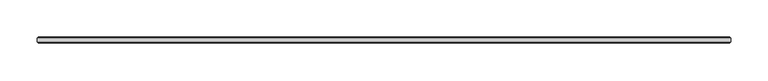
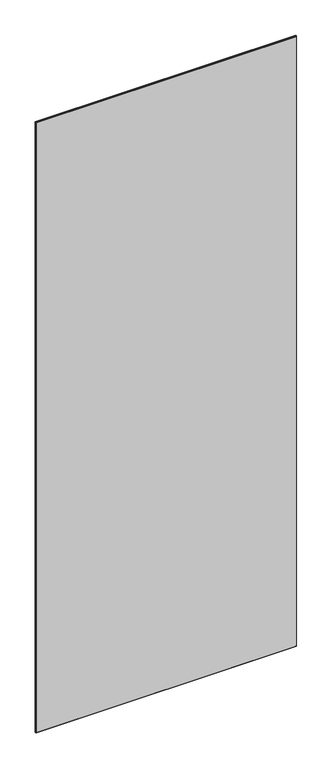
"""IFC4 building model written with IfcOpenShell, lengths in millimetres: plate geometry, 1-AMG-1-Панель одинарный витраж 8, 10 : Смещение 32 Толщина 8mm."""

import ifcopenshell
import ifcopenshell.guid

model = None  # the IFC model being written
_history = None  # IfcOwnerHistory: only IFC2X3 demands one
_inside = {}  # id of a spatial element -> (the spatial element, [elements in it])
_under = {}  # id of a project, library or spatial element -> (it, [spatial elements below it])
_declared = {}  # id of a project -> (the project, [libraries it declares])
_typed = {}  # id of a type object -> (the type object, [elements of that type])
_made_of = {}  # id of a material, layer set ... -> (it, [elements and type objects made of it])


def new_model(schema):
    """Start an empty IFC model of exactly this schema.

    Asked for "IFC4X3", IfcOpenShell would pick the latest addendum, in which some entities
    have other attributes; the version numbers below select the first issue.
    IFC2X3 requires an IfcOwnerHistory on every rooted entity: one is made here for all.
    """
    global model, _history
    if schema == "IFC4X3":
        model = ifcopenshell.file(schema_version=(4, 3, 0, 0))
    else:
        model = ifcopenshell.file(schema=schema)
    _inside.clear()
    _under.clear()
    _declared.clear()
    _typed.clear()
    _made_of.clear()
    _history = None
    if model.schema == "IFC2X3":
        org = make("IfcOrganization", Name="unknown")
        user = make(
            "IfcPersonAndOrganization",
            ThePerson=make("IfcPerson", FamilyName="unknown"),
            TheOrganization=org,
        )
        app = make(
            "IfcApplication",
            ApplicationDeveloper=org,
            Version="unknown",
            ApplicationFullName="unknown",
            ApplicationIdentifier="unknown",
        )
        _history = make(
            "IfcOwnerHistory",
            OwningUser=user,
            OwningApplication=app,
            ChangeAction="ADDED",
            CreationDate=0,
        )
    return model


def make(cls, **values):
    """One entity of the class cls with the attributes given. An attribute that is None is left unset."""
    return model.create_entity(
        cls, **{name: value for name, value in values.items() if value is not None}
    )


def rooted(cls, **values):
    """An entity with a GlobalId (a new one), such as an element, a storey or a relation."""
    return make(cls, GlobalId=ifcopenshell.guid.new(), OwnerHistory=_history, **values)


def si_unit(unit_type, name, prefix=None):
    """IfcSIUnit, for example si_unit("LENGTHUNIT", "METRE", prefix="MILLI")."""
    return make("IfcSIUnit", UnitType=unit_type, Prefix=prefix, Name=name)


def assignment(units):
    """IfcUnitAssignment: the units of a project."""
    return None if units is None else make("IfcUnitAssignment", Units=units)


def point(xyz):
    """IfcCartesianPoint."""
    return None if xyz is None else make("IfcCartesianPoint", Coordinates=xyz)


def direction(xyz):
    """IfcDirection."""
    return None if xyz is None else make("IfcDirection", DirectionRatios=xyz)


def frame(location, z_axis=None, x_axis=None):
    """IfcAxis2Placement3D, a coordinate frame: its origin and axes. An axis left out is left unset."""
    return make(
        "IfcAxis2Placement3D",
        Location=point(location),
        Axis=direction(z_axis),
        RefDirection=direction(x_axis),
    )


def origin():
    """The frame at (0, 0, 0) with its axes left unset."""
    return frame((0.0, 0.0, 0.0))


def place(relative_to, where):
    """IfcLocalPlacement: puts the frame where relative to a parent placement (None: the world)."""
    return make(
        "IfcLocalPlacement", PlacementRelTo=relative_to, RelativePlacement=where
    )


def context(
    kind, dimensions, precision=None, world=None, true_north=None, identifier=None
):
    """IfcGeometricRepresentationContext, for example the 3D "Model" context."""
    return make(
        "IfcGeometricRepresentationContext",
        ContextIdentifier=identifier,
        ContextType=kind,
        CoordinateSpaceDimension=dimensions,
        Precision=precision,
        WorldCoordinateSystem=world,
        TrueNorth=true_north,
    )


def project(units=None, contexts=None):
    """IfcProject with its units and contexts."""
    return rooted(
        "IfcProject",
        Name="project",
        RepresentationContexts=contexts,
        UnitsInContext=assignment(units),
    )


def spatial(cls, under=None, at=None, **own):
    """A site, building, storey or space (cls), placed at a placement, below another one or the project."""
    s = rooted(cls, ObjectPlacement=at, **own)
    if under is not None:
        _under.setdefault(under.id(), (under, []))[1].append(s)
    return s


def faces_of(points, faces, orient=None, outer=None):
    """IfcFace entities. A face is a list of loops; a loop is a list of indices into points, from 0.

    orient and outer hold one flag for each loop. By default every Orientation is true, the
    first loop of a face is its IfcFaceOuterBound and the others are IfcFaceBound.
    """
    made = []
    for i, loops in enumerate(faces):
        bounds = []
        for j, loop in enumerate(loops):
            is_outer = j == 0 if outer is None else outer[i][j]
            bounds.append(
                make(
                    "IfcFaceOuterBound" if is_outer else "IfcFaceBound",
                    Bound=make("IfcPolyLoop", Polygon=[points[k] for k in loop]),
                    Orientation=True if orient is None else orient[i][j],
                )
            )
        made.append(make("IfcFace", Bounds=bounds))
    return made


def faceted_brep(points, faces, orient=None, outer=None, voids=None):
    """IfcFacetedBrep: a solid bounded by flat faces; with voids (closed shells), ...WithVoids."""
    shared = [point(p) for p in points]
    hull = make("IfcClosedShell", CfsFaces=faces_of(shared, faces, orient, outer))
    if voids is None:
        return make("IfcFacetedBrep", Outer=hull)
    return make(
        "IfcFacetedBrepWithVoids",
        Outer=hull,
        Voids=[
            make(cls, CfsFaces=faces_of(shared, fs, o, b)) for cls, fs, o, b in voids
        ],
    )


def shape(context_of_items, identifier, shape_type, items):
    """IfcShapeRepresentation: the items that make up one representation, for example the "Body"."""
    return make(
        "IfcShapeRepresentation",
        ContextOfItems=context_of_items,
        RepresentationIdentifier=identifier,
        RepresentationType=shape_type,
        Items=items,
    )


def source(mapping_origin, context_of_items, identifier, shape_type, items):
    """IfcRepresentationMap: a shape defined once, which mapped items show again and again."""
    return make(
        "IfcRepresentationMap",
        MappingOrigin=mapping_origin,
        MappedRepresentation=shape(context_of_items, identifier, shape_type, items),
    )


def transform(
    local_origin,
    x_axis=None,
    y_axis=None,
    z_axis=None,
    scale=None,
    scale2=None,
    scale3=None,
    uniform=True,
):
    """IfcCartesianTransformationOperator3D, or its non-uniform kind. x_axis, y_axis, z_axis: its Axis1, 2, 3."""
    if uniform:
        return make(
            "IfcCartesianTransformationOperator3D",
            Axis1=direction(x_axis),
            Axis2=direction(y_axis),
            LocalOrigin=point(local_origin),
            Scale=scale,
            Axis3=direction(z_axis),
        )
    return make(
        "IfcCartesianTransformationOperator3DnonUniform",
        Axis1=direction(x_axis),
        Axis2=direction(y_axis),
        LocalOrigin=point(local_origin),
        Scale=scale,
        Axis3=direction(z_axis),
        Scale2=scale2,
        Scale3=scale3,
    )


def mapped(mapping_source, mapping_target):
    """IfcMappedItem: shows the shape of a source again, moved by a transform."""
    return make(
        "IfcMappedItem", MappingSource=mapping_source, MappingTarget=mapping_target
    )


def made_of(thing, what):
    """Note that an element or type object is made of a material, layer set ...; save() writes the relation."""
    if what is not None:
        _made_of.setdefault(what.id(), (what, []))[1].append(thing)
    return thing


def element(
    cls,
    number,
    at=None,
    inside=None,
    cuts=None,
    type_object=None,
    material=None,
    context=None,
    identifier="Body",
    shape_type=None,
    held_by="IfcProductDefinitionShape",
    body=None,
    shapes=None,
    **own,
):
    """One element of the class cls, such as IfcWall. Its Tag is "e" and its number.

    at: its placement. inside: the storey or other place that contains it. cuts: it is an
    opening in that element (IfcRelVoidsElement). A single representation is given by context,
    identifier, shape_type and body (its items); several are given by shapes. held_by: the class
    of the entity that holds the representations. save() writes the other relations.
    """
    e = rooted(cls, Tag="e%d" % number, ObjectPlacement=at, **own)
    if body is not None:
        shapes = [shape(context, identifier, shape_type, body)]
    if shapes is not None:
        e.Representation = make(held_by, Representations=shapes)
    if inside is not None:
        _inside.setdefault(inside.id(), (inside, []))[1].append(e)
    if cuts is not None:
        rooted(
            "IfcRelVoidsElement", RelatingBuildingElement=cuts, RelatedOpeningElement=e
        )
    if type_object is not None:
        _typed.setdefault(type_object.id(), (type_object, []))[1].append(e)
    return made_of(e, material)


def aggregate(whole, parts):
    """IfcRelAggregates: a whole, such as a stair, and the parts it consists of."""
    return rooted("IfcRelAggregates", RelatingObject=whole, RelatedObjects=parts)


def save(model, path):
    """Write the relations noted so far, then the file.

    IfcRelAggregates (storeys below a building ...), IfcRelContainedInSpatialStructure (elements
    in a storey), IfcRelDefinesByType, IfcRelAssociatesMaterial and IfcRelDeclares: one each for
    every whole, place, type object, material and project.
    """
    for whole, parts in _under.values():
        aggregate(whole, parts)
    for where, things in _inside.values():
        rooted(
            "IfcRelContainedInSpatialStructure",
            RelatedElements=things,
            RelatingStructure=where,
        )
    for kind, things in _typed.values():
        rooted("IfcRelDefinesByType", RelatedObjects=things, RelatingType=kind)
    for what, things in _made_of.values():
        rooted("IfcRelAssociatesMaterial", RelatedObjects=things, RelatingMaterial=what)
    for by, libraries in _declared.values():
        rooted("IfcRelDeclares", RelatingContext=by, RelatedDefinitions=libraries)
    model.write(path)


def plate_4fcb0a8f(model_context):
    return source(origin(), model_context, "Body", "Brep", [
        faceted_brep([(463.8739581, 29.5038347, 2287.8976562), (463.8739581, 34.4961653, 2287.8976562), (-463.8739581, 34.4961653, 2287.8976562), (-463.8739581, 29.5038347, 2287.8976562), (463.8739581, 34.4961653, -7.0), (463.8739581, 29.5038347, -7.0), (-463.8739581, 29.5038347, -7.0), (-463.8739581, 34.4961653, -7.0), (-462.3701234, 36.0, 2286.3938215), (462.3701234, 36.0, 2286.3938215), (462.3701234, 36.0, -5.5039422), (-462.3701234, 36.0, -5.5039422), (462.3701234, 28.0, 2286.3938215), (-462.3701234, 28.0, 2286.3938215), (-462.3701234, 28.0, -5.4961653), (462.3701234, 28.0, -5.4961653)], [[[0, 1, 2, 3]], [[4, 5, 6, 7]], [[8, 9, 10, 11]], [[3, 2, 7, 6]], [[12, 13, 14, 15]], [[1, 0, 5, 4]], [[1, 4, 10, 9]], [[5, 0, 12, 15]], [[7, 2, 8, 11]], [[3, 6, 14, 13]], [[0, 3, 13, 12]], [[2, 1, 9, 8]], [[6, 5, 15, 14]], [[4, 7, 11, 10]]]),
    ])


if __name__ == "__main__":
    model = new_model("IFC4")
    model_context = context("Model", 3, world=origin())
    ifc_project = project(units=[si_unit("LENGTHUNIT", "METRE", prefix="MILLI")], contexts=[model_context])
    site = spatial("IfcSite", under=ifc_project)
    building = spatial("IfcBuilding", under=site)
    placement = place(None, origin())
    plate_shape = plate_4fcb0a8f(model_context)
    element("IfcPlate", 1, ObjectType="1-AMG-1-Панель одинарный витраж 8, 10 : Смещение 32 Толщина 8mm", at=placement, inside=building, context=model_context, shape_type="MappedRepresentation", body=[
        mapped(plate_shape, transform((0.0, 0.0, 0.0), x_axis=(1.0, 0.0, 0.0), y_axis=(0.0, 1.0, 0.0), z_axis=(0.0, 0.0, 1.0))),
    ])
    save(model, "model.ifc")
